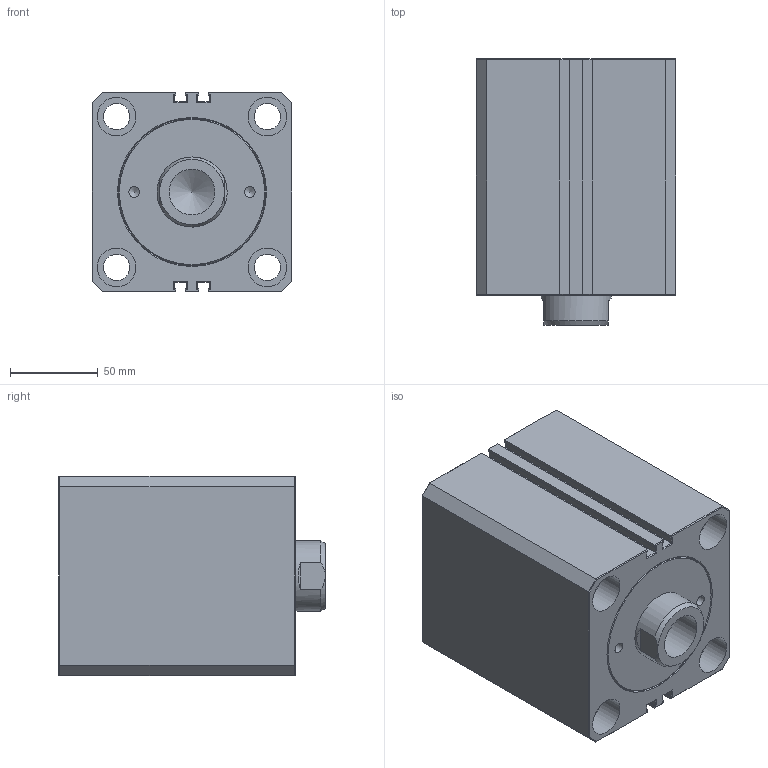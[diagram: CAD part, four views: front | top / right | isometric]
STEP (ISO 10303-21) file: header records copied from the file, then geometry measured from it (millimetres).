
FILE_DESCRIPTION(/* description */ ('Unknown'),/* implementation_level */ '2;1');
FILE_NAME(/* name */ 'HTM140-SD80X40N',/* time_stamp */ '2022-09-01T01:36:21+08:00',/* author */ ('Unknown'),/* organization */ ('Unknown'),/* preprocessor_version */ 'ST-DEVELOPER v16.7',/* originating_system */ 'DEX',/* authorisation */ $);
FILE_SCHEMA (('AUTOMOTIVE_DESIGN {1 0 10303 214 3 1 1}'));
Length unit declared in the file: millimetre
Products named in the file (1): HTM140-SD80X40N
Bounding box: 114 x 152 x 114 mm (x, y, z)
Volume: 1601586.2 mm3; surface area: 125401.5 mm2
Topology: 1 solids, 1 shells, 187 faces, 430 edges, 259 vertices
Faces by surface type: plane 140, cylinder 19, cone 16, bspline 12
Full cylindrical faces by diameter (mm): 6 x1, 6.1 x2, 15 x4, 15.806 x2, 22 x8, 26.211 x1, 40 x1
Entity records: 6353 total; most frequent: CARTESIAN_POINT 1061, ORIENTED_EDGE 778, DIRECTION 768, EDGE_CURVE 389, LINE 294, VECTOR 294, VERTEX_POINT 248, FACE_BOUND 239
